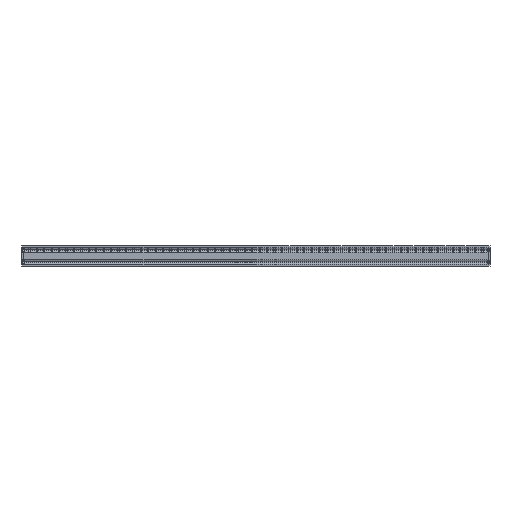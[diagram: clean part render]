
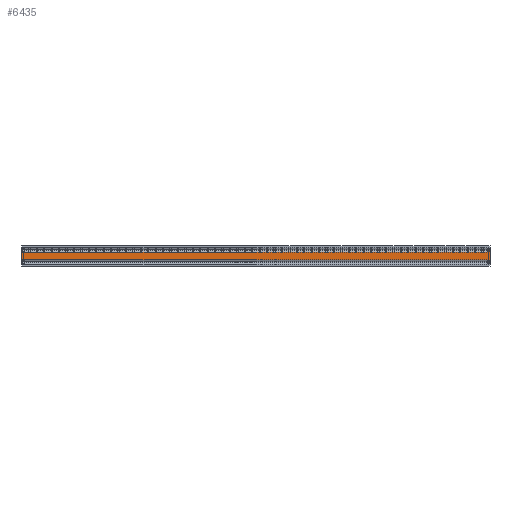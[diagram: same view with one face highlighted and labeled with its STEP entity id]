
A CAD part, front view. The second image highlights one B-rep face of the part: STEP entity #6435.
In plain terms, the highlighted planar face has unit normal (0, -1, 0) as drawn and (0, 0, 1) by its records, which use the part's own axes.
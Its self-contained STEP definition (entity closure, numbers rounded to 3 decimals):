
#669=PLANE('',#6837);
#1493=LINE('',#10318,#2325);
#1494=LINE('',#10322,#2326);
#1495=LINE('',#10324,#2327);
#1496=LINE('',#10326,#2328);
#2325=VECTOR('',#8418,1000.);
#2326=VECTOR('',#8423,1000.);
#2327=VECTOR('',#8424,1000.);
#2328=VECTOR('',#8425,1000.);
#4002=ORIENTED_EDGE('',*,*,#4914,.T.);
#4003=ORIENTED_EDGE('',*,*,#4915,.F.);
#4004=ORIENTED_EDGE('',*,*,#4916,.F.);
#4005=ORIENTED_EDGE('',*,*,#4912,.T.);
#4912=EDGE_CURVE('',#5497,#5496,#1493,.T.);
#4914=EDGE_CURVE('',#5496,#5498,#1494,.T.);
#4915=EDGE_CURVE('',#5499,#5498,#1495,.T.);
#4916=EDGE_CURVE('',#5497,#5499,#1496,.T.);
#5496=VERTEX_POINT('',#10317);
#5497=VERTEX_POINT('',#10319);
#5498=VERTEX_POINT('',#10323);
#5499=VERTEX_POINT('',#10325);
#5827=EDGE_LOOP('',(#4002,#4003,#4004,#4005));
#6123=FACE_BOUND('',#5827,.T.);
#6435=ADVANCED_FACE('',(#6123),#669,.F.);
#6837=AXIS2_PLACEMENT_3D('',#10321,#8421,#8422);
#8418=DIRECTION('',(-1.,0.,0.));
#8421=DIRECTION('',(0.,0.,-1.));
#8422=DIRECTION('',(-1.,0.,0.));
#8423=DIRECTION('',(0.,-1.,0.));
#8424=DIRECTION('',(-1.,0.,0.));
#8425=DIRECTION('',(0.,-1.,0.));
#10317=CARTESIAN_POINT('',(-350.,-9.527,500.));
#10318=CARTESIAN_POINT('',(350.,-9.527,500.));
#10319=CARTESIAN_POINT('',(350.,-9.527,500.));
#10321=CARTESIAN_POINT('',(350.,-9.527,500.));
#10322=CARTESIAN_POINT('',(-350.,-9.527,500.));
#10323=CARTESIAN_POINT('',(-350.,-20.473,500.));
#10324=CARTESIAN_POINT('',(350.,-20.473,500.));
#10325=CARTESIAN_POINT('',(350.,-20.473,500.));
#10326=CARTESIAN_POINT('',(350.,-9.527,500.));
